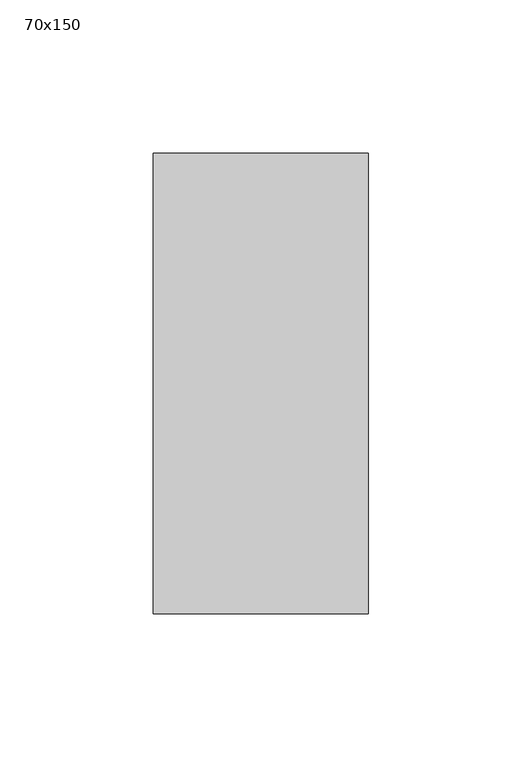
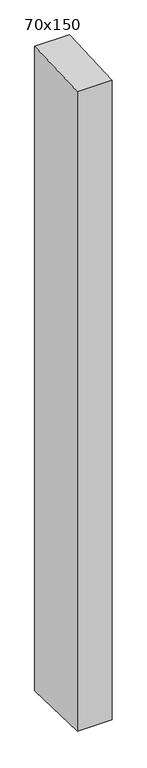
"""IFC4 building model written with IfcOpenShell, lengths in millimetres: member geometry, 長方形のマリオン : 70x150."""

from ifc_helpers import new_model, si_unit, frame, origin, place, context, project, spatial, polyline, outline, extrude, source, transform, mapped, element, save


def member_70x150_d344c11c(model_context):
    return source(origin(), model_context, "Body", "SweptSolid", [
        extrude(outline(polyline([(-75.0, -3.0352512), (75.0, 3.0352512), (75.0, -1374.7031681), (-75.0, -1370.9848117), (-75.0, -3.0352512)])), frame((-35.0, 0.0, 0.0), z_axis=(1.0, 0.0, 0.0), x_axis=(0.0, 1.0, 0.0)), (0.0, 0.0, 1.0), 70.0),
    ])


if __name__ == "__main__":
    model = new_model("IFC4")
    model_context = context("Model", 3, world=origin())
    ifc_project = project(units=[si_unit("LENGTHUNIT", "METRE", prefix="MILLI")], contexts=[model_context])
    site = spatial("IfcSite", under=ifc_project)
    building = spatial("IfcBuilding", under=site)
    placement = place(None, origin())
    member_70x150_shape = member_70x150_d344c11c(model_context)
    element("IfcMember", 1, ObjectType="長方形のマリオン : 70x150", at=placement, inside=building, context=model_context, shape_type="MappedRepresentation", body=[
        mapped(member_70x150_shape, transform((0.0, 0.0, 0.0), x_axis=(1.0, 0.0, 0.0), y_axis=(0.0, 1.0, 0.0), z_axis=(0.0, 0.0, 1.0))),
    ])
    save(model, "model.ifc")
